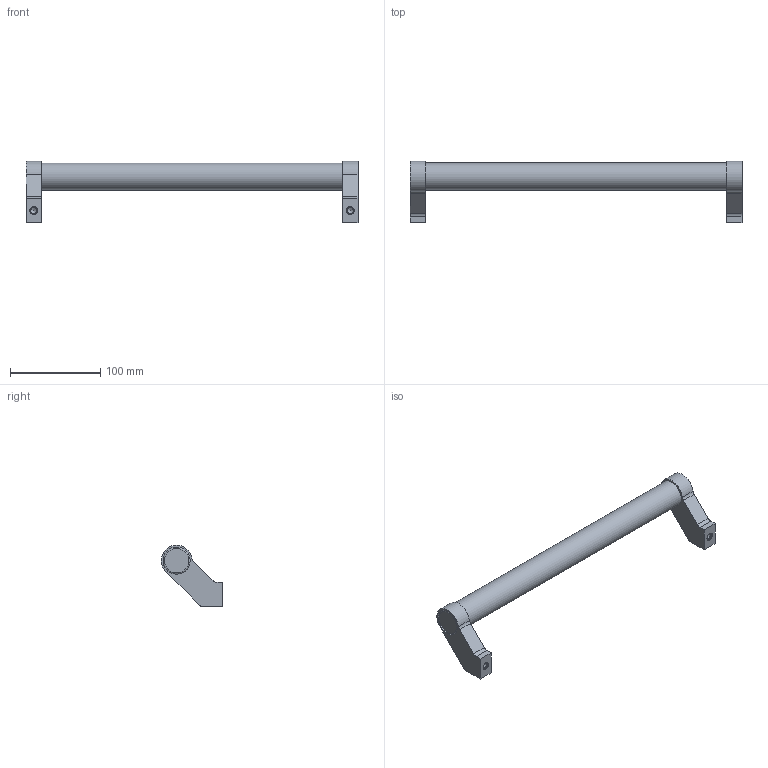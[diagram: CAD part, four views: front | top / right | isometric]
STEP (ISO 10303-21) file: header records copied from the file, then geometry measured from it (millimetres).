
FILE_DESCRIPTION( ( 'STEP AP203' ), '1' );
FILE_NAME( 'C:/Temp/Ganter_Step_05_03_2020/data/1_2/gn333/Tubular handle GN 333-30-350-A-ES.stp', '2020-03-05T10:16:22', ( 'License CC BY-ND 4.0' ), ( 'CADENAS' ), ' ', 'PARTsolutions', ' ' );
FILE_SCHEMA( ( 'CONFIG_CONTROL_DESIGN' ) );
Length unit declared in the file: millimetre
Products named in the file (1): _Tubular handle GN 333-30-350-A-ES
Bounding box: 367 x 67.96 x 67.99 mm (x, y, z)
Volume: 316948.5 mm3; surface area: 48325.7 mm2
Topology: 1 solids, 1 shells, 47 faces, 108 edges, 69 vertices
Faces by surface type: plane 26, cylinder 15, cone 4, torus 2
Full cylindrical faces by diameter (mm): 6.647 x2, 8.5 x2, 30 x3
Entity records: 1326 total; most frequent: CARTESIAN_POINT 270, DIRECTION 216, ORIENTED_EDGE 184, EDGE_CURVE 92, AXIS2_PLACEMENT_3D 84, VERTEX_POINT 66, EDGE_LOOP 64, FACE_OUTER_BOUND 54
